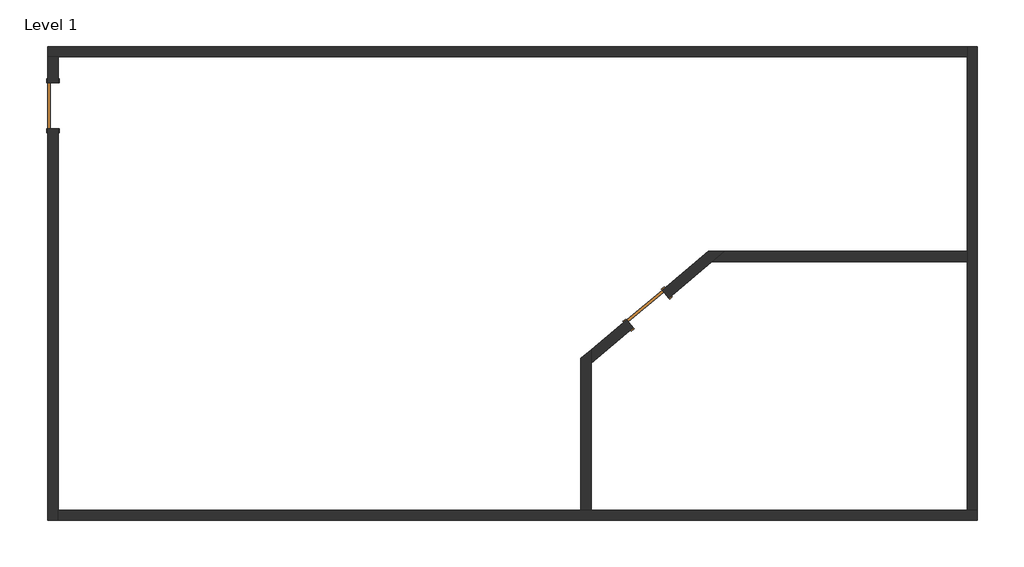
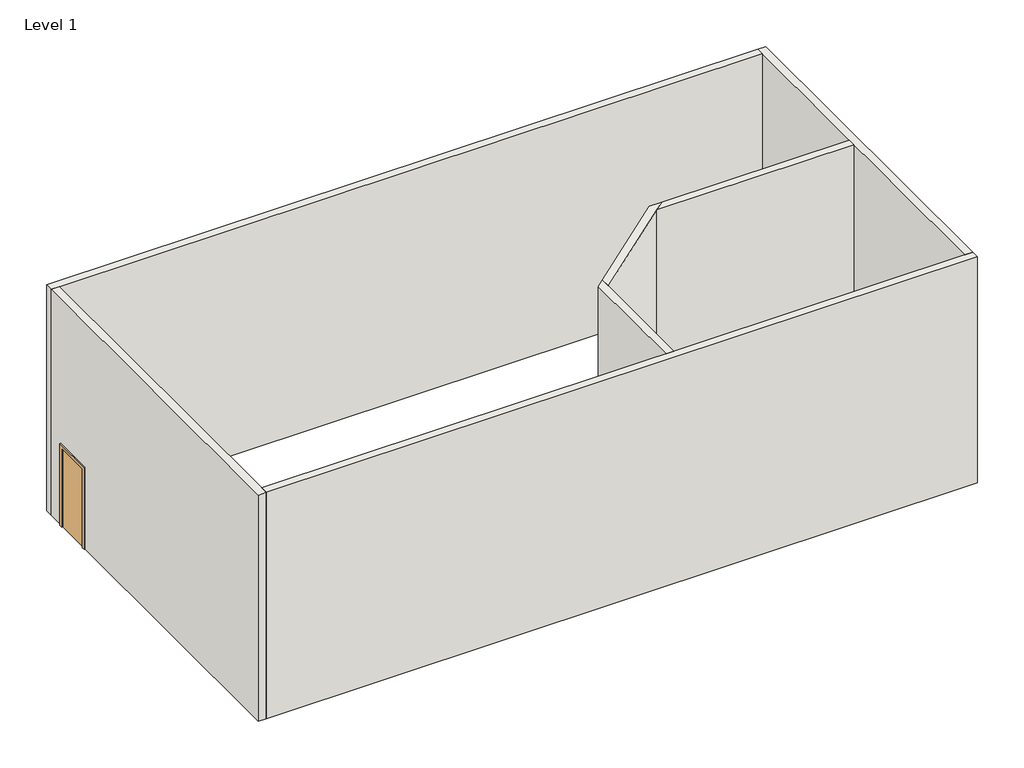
# One storey: 7 walls, 2 doors.
"""IFC4 building model written with IfcOpenShell, lengths in millimetres."""

from ifc_helpers import new_model, si_unit, origin, origin_with_axes, place, context, project, spatial, polyline, outline, extrude, faceted_brep, transform, mapped, element, save
from components import door_54dd4da4

model = new_model("IFC4")

# Units and contexts
model_context = context("Model", 3, world=origin())
ifc_project = project(units=[si_unit("LENGTHUNIT", "METRE", prefix="MILLI")], contexts=[model_context])

# Site, building, storey
site = spatial("IfcSite", under=ifc_project)
building = spatial("IfcBuilding", under=site)
storey = spatial("IfcBuildingStorey", under=building, Name="Level 1", Elevation=0.0)

# Doors
placement = place(None, origin())
door_shape = door_54dd4da4(model_context)
element("IfcDoor", 1, ObjectType="Single-Flush : 36\" x 84\"", at=placement, inside=storey, context=model_context, shape_type="MappedRepresentation", body=[
    mapped(door_shape, transform((-19205.8111814, 6863.8662891, 0.0), x_axis=(0.0, 1.0, 0.0), y_axis=(-1.0, 0.0, 0.0), z_axis=(0.0, 0.0, 1.0))),
])
element("IfcDoor", 2, ObjectType="Single-Flush : 36\" x 84\"", at=placement, inside=storey, context=model_context, shape_type="MappedRepresentation", body=[
    mapped(door_shape, transform((-7475.3133342, 2854.0866246, 0.0), x_axis=(0.7660444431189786, 0.6427876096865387, 0.0), y_axis=(-0.6427876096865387, 0.7660444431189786, 0.0), z_axis=(0.0, 0.0, 1.0))),
])

# Walls
element("IfcWall", 3, ObjectType="Generic - 8\"", at=placement, inside=storey, context=model_context, shape_type="Brep", body=[
    faceted_brep([(-19307.4111814, 7829.0662891, 0.0), (-19104.2111814, 7829.0662891, 0.0), (-1171.8111814, 7829.0662891, 0.0), (-1171.8111814, 7829.0662891, 6096.0), (-19104.2111814, 7829.0662891, 6096.0), (-19307.4111814, 7829.0662891, 6096.0), (-19307.4111814, 8032.2662891, 0.0), (-19307.4111814, 8032.2662891, 6096.0), (-1171.8111814, 8032.2662891, 6096.0), (-1171.8111814, 8032.2662891, 0.0)], [[[0, 1, 2, 3, 4, 5]], [[6, 7, 8, 9]], [[2, 1, 0, 6, 9]], [[5, 4, 3, 8, 7]], [[0, 5, 7, 6]], [[3, 2, 9, 8]]]),
])
element("IfcWall", 4, ObjectType="Generic - 8\"", at=placement, inside=storey, context=model_context, shape_type="Brep", body=[
    faceted_brep([(-19104.2111814, 7321.0662891, 2133.6), (-19104.2111814, 7321.0662891, 0.0), (-19104.2111814, 7829.0662891, 0.0), (-19104.2111814, 7829.0662891, 6096.0), (-19104.2111814, -1111.7337109, 6096.0), (-19104.2111814, -1314.9337109, 6096.0), (-19104.2111814, -1314.9337109, 0.0), (-19104.2111814, -1111.7337109, 0.0), (-19104.2111814, 6406.6662891, 0.0), (-19104.2111814, 6406.6662891, 2133.6), (-19307.4111814, 7829.0662891, 0.0), (-19307.4111814, 7321.0662891, 0.0), (-19307.4111814, 7321.0662891, 2133.6), (-19307.4111814, 6406.6662891, 2133.6), (-19307.4111814, 6406.6662891, 0.0), (-19307.4111814, -1314.9337109, 0.0), (-19307.4111814, -1314.9337109, 6096.0), (-19307.4111814, 7829.0662891, 6096.0)], [[[0, 1, 2, 3, 4, 5, 6, 7, 8, 9]], [[10, 11, 12, 13, 14, 15, 16, 17]], [[2, 1, 11, 10]], [[8, 7, 6, 15, 14]], [[5, 4, 3, 17, 16]], [[6, 5, 16, 15]], [[3, 2, 10, 17]], [[12, 11, 1, 0]], [[13, 12, 0, 9]], [[14, 13, 9, 8]]]),
])
element("IfcWall", 5, ObjectType="Generic - 8\"", at=placement, inside=storey, context=model_context, shape_type="Brep", body=[
    faceted_brep([(-968.6111814, -1111.7337109, 0.0), (-1171.8111814, -1111.7337109, 0.0), (-19104.2111814, -1111.7337109, 0.0), (-19104.2111814, -1111.7337109, 6096.0), (-1171.8111814, -1111.7337109, 6096.0), (-968.6111814, -1111.7337109, 6096.0), (-968.6111814, -1314.9337109, 0.0), (-968.6111814, -1314.9337109, 6096.0), (-19104.2111814, -1314.9337109, 6096.0), (-19104.2111814, -1314.9337109, 0.0)], [[[0, 1, 2, 3, 4, 5]], [[6, 7, 8, 9]], [[2, 1, 0, 6, 9]], [[5, 4, 3, 8, 7]], [[0, 5, 7, 6]], [[3, 2, 9, 8]]]),
])
element("IfcWall", 6, ObjectType="Generic - 8\"", at=placement, inside=storey, context=model_context, shape_type="Brep", body=[
    faceted_brep([(-1171.8111814, 8032.2662891, 0.0), (-1171.8111814, 7829.0662891, 0.0), (-1171.8111814, -1111.7337109, 0.0), (-1171.8111814, -1111.7337109, 6096.0), (-1171.8111814, 7829.0662891, 6096.0), (-1171.8111814, 8032.2662891, 6096.0), (-968.6111814, 8032.2662891, 0.0), (-968.6111814, 8032.2662891, 6096.0), (-968.6111814, -1111.7337109, 6096.0), (-968.6111814, -1111.7337109, 0.0)], [[[0, 1, 2, 3, 4, 5]], [[6, 7, 8, 9]], [[2, 1, 0, 6, 9]], [[5, 4, 3, 8, 7]], [[0, 5, 7, 6]], [[3, 2, 9, 8]]]),
])
element("IfcWall", 7, ObjectType="Generic - 8\"", at=placement, inside=storey, context=model_context, shape_type="Brep", body=[
    faceted_brep([(-8588.6111814, -1111.7337109, 0.0), (-8588.6111814, 1787.289431, 0.0), (-8588.6111814, 2052.5481922, 0.0), (-8588.6111814, 2052.5481922, 6096.0), (-8588.6111814, 1787.289431, 6096.0), (-8588.6111814, -1111.7337109, 6096.0), (-8791.8111814, -1111.7337109, 0.0), (-8791.8111814, -1111.7337109, 6096.0), (-8791.8111814, 1882.0431471, 6096.0), (-8791.8111814, 1882.0431471, 0.0)], [[[0, 1, 2, 3, 4, 5]], [[6, 7, 8, 9]], [[2, 1, 0, 6, 9]], [[5, 4, 3, 8, 7]], [[0, 5, 7, 6]], [[3, 2, 9, 8]]]),
])
element("IfcWall", 8, ObjectType="Generic - 8\"", at=placement, inside=storey, context=model_context, shape_type="Brep", body=[
    faceted_brep([(-7059.7705937, 3070.1390043, 2133.6), (-7059.7705937, 3070.1390043, 0.0), (-6201.5831698, 3790.2437551, 0.0), (-5959.4188398, 3993.4437551, 0.0), (-5959.4188398, 3993.4437551, 6096.0), (-6201.5831698, 3790.2437551, 6096.0), (-8588.6111814, 1787.289431, 6096.0), (-8588.6111814, 1787.289431, 0.0), (-7760.2416325, 2482.374014, 0.0), (-7760.2416325, 2482.374014, 2133.6), (-6275.5419214, 3993.4437551, 0.0), (-7190.385036, 3225.7992351, 0.0), (-7190.385036, 3225.7992351, 2133.6), (-7890.8560748, 2638.0342448, 2133.6), (-7890.8560748, 2638.0342448, 0.0), (-8588.6111814, 2052.5481922, 0.0), (-8588.6111814, 2052.5481922, 6096.0), (-6275.5419214, 3993.4437551, 6096.0)], [[[0, 1, 2, 3, 4, 5, 6, 7, 8, 9]], [[10, 11, 12, 13, 14, 15, 16, 17]], [[8, 7, 15, 14]], [[3, 2, 1, 11, 10]], [[6, 5, 4, 17, 16]], [[7, 6, 16, 15]], [[4, 3, 10, 17]], [[12, 11, 1, 0]], [[13, 12, 0, 9]], [[14, 13, 9, 8]]]),
])
element("IfcWall", 9, ObjectType="Generic - 8\"", at=placement, inside=storey, context=model_context, shape_type="SweptSolid", body=[
    extrude(outline(polyline([(-1171.8111814, 3790.2437551), (-6201.5831698, 3790.2437551), (-5959.4188398, 3993.4437551), (-1171.8111814, 3993.4437551), (-1171.8111814, 3790.2437551)])), origin_with_axes(), (0.0, 0.0, 1.0), 6096.0),
])

save(model, "model.ifc")
